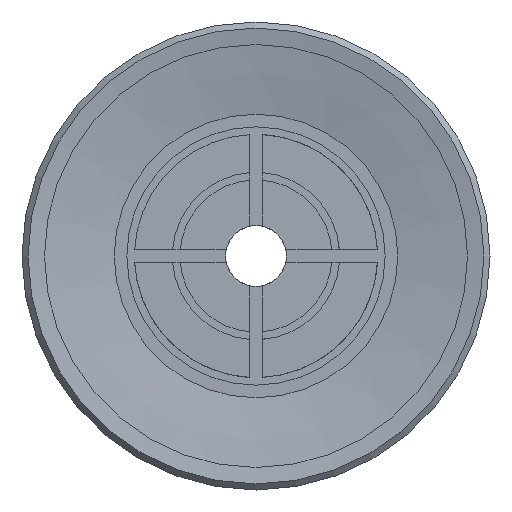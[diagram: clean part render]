
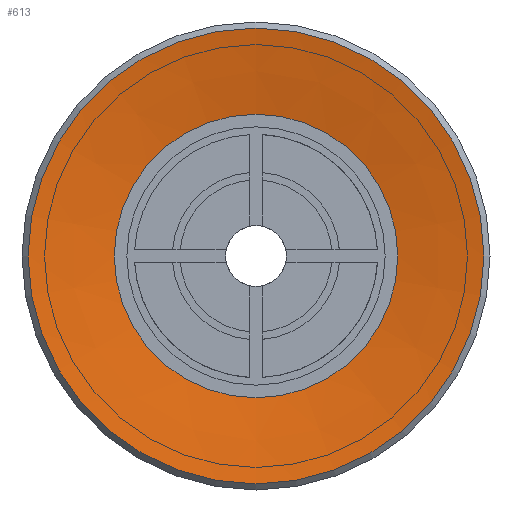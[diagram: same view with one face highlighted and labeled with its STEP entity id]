
A CAD part, front view. The second image highlights one B-rep face of the part: STEP entity #613.
In plain terms, the highlighted conical face has half-angle 80 degrees and reference radius 4.664 mm.
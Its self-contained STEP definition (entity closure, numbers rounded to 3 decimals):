
#613=ADVANCED_FACE('',(#1020,#1021),#1022,.F.);
#1020=FACE_BOUND('',#1676,.T.);
#1021=FACE_OUTER_BOUND('',#1677,.T.);
#1022=CONICAL_SURFACE('',#1678,4.664,1.396);
#1676=EDGE_LOOP('',(#2779));
#1677=EDGE_LOOP('',(#2780));
#1678=AXIS2_PLACEMENT_3D('',#2781,#2782,#2783);
#2779=ORIENTED_EDGE('',*,*,#3261,.F.);
#2780=ORIENTED_EDGE('',*,*,#3262,.T.);
#2781=CARTESIAN_POINT('',(0.0,0.5,0.0));
#2782=DIRECTION('',(-0.0,-1.0,0.));
#2783=DIRECTION('',(0.0,0.,-1.0));
#3261=EDGE_CURVE('',#3820,#3820,#3821,.T.);
#3262=EDGE_CURVE('',#3822,#3822,#3823,.T.);
#3820=VERTEX_POINT('',#5123);
#3821=CIRCLE('',#5124,4.664);
#3822=VERTEX_POINT('',#5125);
#3823=CIRCLE('',#5126,7.5);
#5123=CARTESIAN_POINT('',(0.0,0.5,-4.664));
#5124=AXIS2_PLACEMENT_3D('',#5679,#5680,#5681);
#5125=CARTESIAN_POINT('',(0.0,0.,-7.5));
#5126=AXIS2_PLACEMENT_3D('',#5682,#5683,#5684);
#5679=CARTESIAN_POINT('',(0.0,0.5,0.0));
#5680=DIRECTION('',(0.0,-1.0,0.));
#5681=DIRECTION('',(0.0,0.,-1.0));
#5682=CARTESIAN_POINT('',(0.0,0.0,0.0));
#5683=DIRECTION('',(0.0,-1.0,0.));
#5684=DIRECTION('',(0.0,0.,-1.0));
